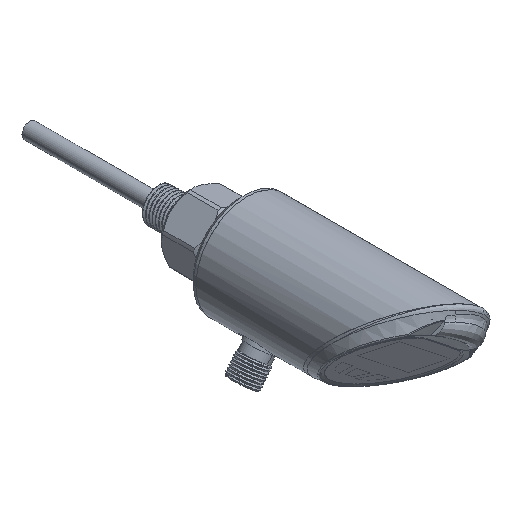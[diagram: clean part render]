
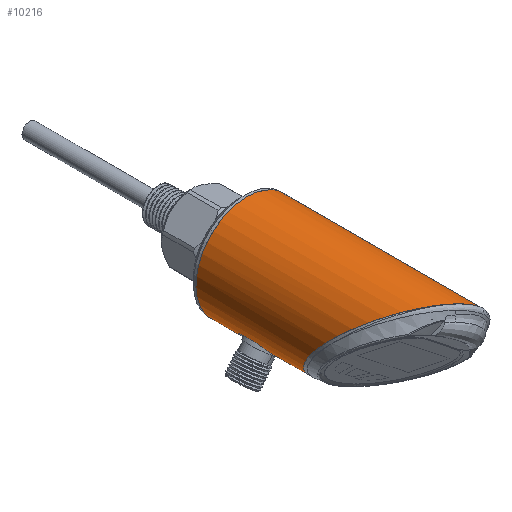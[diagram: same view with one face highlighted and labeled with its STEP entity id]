
A CAD part, isometric view. The second image highlights one B-rep face of the part: STEP entity #10216.
In plain terms, the highlighted cylindrical face has radius 20 mm (diameter 40 mm), a partial arc.
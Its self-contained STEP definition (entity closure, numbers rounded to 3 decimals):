
#279 = EDGE_CURVE ( 'NONE', #6740, #10438, #12647, .T. ) ;
#405 = CARTESIAN_POINT ( 'NONE',  ( -19.716, 97., -35.55 ) ) ;
#550 = CARTESIAN_POINT ( 'NONE',  ( 19.685, 137., -42.45 ) ) ;
#588 = CARTESIAN_POINT ( 'NONE',  ( -19.716, 83.5, -35.55 ) ) ;
#669 = VECTOR ( 'NONE', #2079, 1000. ) ;
#1087 = CARTESIAN_POINT ( 'NONE',  ( -19.716, 83.5, -35.55 ) ) ;
#2079 = DIRECTION ( 'NONE',  ( 0., 1., 0. ) ) ;
#2179 = CARTESIAN_POINT ( 'NONE',  ( -20.015, 70.226, -38.667 ) ) ;
#2563 = CARTESIAN_POINT ( 'NONE',  ( -20.002, 82.099, -39.778 ) ) ;
#3244 = EDGE_CURVE ( 'NONE', #16395, #18468, #4799, .T. ) ;
#3266 = CARTESIAN_POINT ( 'NONE',  ( -26.615, 97., -74.951 ) ) ;
#3310 = ORIENTED_EDGE ( 'NONE', *, *, #3961, .F. ) ;
#3436 = ORIENTED_EDGE ( 'NONE', *, *, #13723, .T. ) ;
#3843 = CARTESIAN_POINT ( 'NONE',  ( -19.716, 69.5, -35.55 ) ) ;
#3933 = CARTESIAN_POINT ( 'NONE',  ( -19.996, 69.967, -38.074 ) ) ;
#3961 = EDGE_CURVE ( 'NONE', #10269, #17028, #6032, .T. ) ;
#4142 = CARTESIAN_POINT ( 'NONE',  ( -19.821, 83.477, -36.198 ) ) ;
#4273 = ORIENTED_EDGE ( 'NONE', *, *, #5265, .T. ) ;
#4461 = CARTESIAN_POINT ( 'NONE',  ( -19.808, 114.234, -41.874 ) ) ;
#4551 = CARTESIAN_POINT ( 'NONE',  ( 19.685, 137., -42.45 ) ) ;
#4799 = LINE ( 'NONE', #9447, #13578 ) ;
#5265 = EDGE_CURVE ( 'NONE', #6588, #6740, #6730, .T. ) ;
#5423 = CARTESIAN_POINT ( 'NONE',  ( -19.959, 71.527, -40.519 ) ) ;
#6032 = LINE ( 'NONE', #7321, #10811 ) ;
#6588 = VERTEX_POINT ( 'NONE', #19271 ) ;
#6720 = EDGE_CURVE ( 'NONE', #18468, #15538, #10520, .T. ) ;
#6730 = B_SPLINE_CURVE_WITH_KNOTS ( 'NONE', 3,
 ( #9992, #17490, #19158, #19354, #7206, #2563, #11664, #8594, #13243, #16310, #16412, #17678, #14646, #4142, #19060, #1087 ),
 .UNSPECIFIED., .F., .F.,
 ( 4, 2, 2, 2, 2, 2, 2, 4 ),
 ( -0.008, -0.006, -0.005, -0.004, -0.003, -0.002, -0.001, 0. ),
 .UNSPECIFIED. ) ;
#6740 = VERTEX_POINT ( 'NONE', #588 ) ;
#6909 = CARTESIAN_POINT ( 'NONE',  ( -19.808, 73.338, -41.874 ) ) ;
#7038 = CARTESIAN_POINT ( 'NONE',  ( -0.016, 114.234, -39. ) ) ;
#7130 = DIRECTION ( 'NONE',  ( 0., 1., 0. ) ) ;
#7199 = CARTESIAN_POINT ( 'NONE',  ( -19.716, 69.5, -35.55 ) ) ;
#7206 = CARTESIAN_POINT ( 'NONE',  ( -19.976, 81.692, -40.282 ) ) ;
#7321 = CARTESIAN_POINT ( 'NONE',  ( 19.685, 114.234, -42.45 ) ) ;
#8010 = EDGE_LOOP ( 'NONE', ( #3310, #16247, #12678, #15897, #3436, #4273, #17016, #11835 ) ) ;
#8102 = CARTESIAN_POINT ( 'NONE',  ( -19.976, 71.308, -40.282 ) ) ;
#8197 = CARTESIAN_POINT ( 'NONE',  ( -19.98, 69.856, -37.765 ) ) ;
#8330 = CYLINDRICAL_SURFACE ( 'NONE', #10026, 20. ) ;
#8385 = CARTESIAN_POINT ( 'NONE',  ( -19.716, 114.234, -35.55 ) ) ;
#8594 = CARTESIAN_POINT ( 'NONE',  ( -20.017, 82.62, -38.962 ) ) ;
#9447 = CARTESIAN_POINT ( 'NONE',  ( -19.716, 114.234, -35.55 ) ) ;
#9525 = VECTOR ( 'NONE', #18304, 1000. ) ;
#9791 = CARTESIAN_POINT ( 'NONE',  ( -19.907, 69.59, -36.83 ) ) ;
#9889 = CARTESIAN_POINT ( 'NONE',  ( -20.017, 70.375, -38.954 ) ) ;
#9992 = CARTESIAN_POINT ( 'NONE',  ( -19.808, 79.662, -41.874 ) ) ;
#10014 = FACE_OUTER_BOUND ( 'NONE', #8010, .T. ) ;
#10026 = AXIS2_PLACEMENT_3D ( 'NONE', #7038, #7130, #16040 ) ;
#10206 = CARTESIAN_POINT ( 'NONE',  ( 19.685, 59., -42.45 ) ) ;
#10216 = ADVANCED_FACE ( 'NONE', ( #10014 ), #8330, .T. ) ;
#10269 = VERTEX_POINT ( 'NONE', #10206 ) ;
#10295 = DIRECTION ( 'NONE',  ( 0., 1., 0. ) ) ;
#10438 = VERTEX_POINT ( 'NONE', #16306 ) ;
#10520 = B_SPLINE_CURVE_WITH_KNOTS ( 'NONE', 3,
 ( #3843, #11274, #9791, #8197, #3933, #2179, #9889, #15814, #12652, #8102, #5423, #11366, #17187, #6909 ),
 .UNSPECIFIED., .F., .F.,
 ( 4, 2, 2, 2, 2, 2, 4 ),
 ( 0.008, 0.01, 0.011, 0.012, 0.013, 0.014, 0.015 ),
 .UNSPECIFIED. ) ;
#10811 = VECTOR ( 'NONE', #10295, 1000. ) ;
#10998 = EDGE_CURVE ( 'NONE', #10438, #17028, #18998, .T. ) ;
#11136 = DIRECTION ( 'NONE',  ( 0., 1., 0. ) ) ;
#11274 = CARTESIAN_POINT ( 'NONE',  ( -19.829, 69.5, -36.195 ) ) ;
#11280 = CARTESIAN_POINT ( 'NONE',  ( -0.016, 59., -39. ) ) ;
#11366 = CARTESIAN_POINT ( 'NONE',  ( -19.901, 72.228, -41.184 ) ) ;
#11372 = DIRECTION ( 'NONE',  ( -0.985, 0., 0.172 ) ) ;
#11664 = CARTESIAN_POINT ( 'NONE',  ( -20.011, 82.285, -39.513 ) ) ;
#11835 = ORIENTED_EDGE ( 'NONE', *, *, #10998, .T. ) ;
#12078 = CARTESIAN_POINT ( 'NONE',  ( 12.785, 137., -81.85 ) ) ;
#12647 = LINE ( 'NONE', #8385, #669 ) ;
#12652 = CARTESIAN_POINT ( 'NONE',  ( -20.002, 70.899, -39.776 ) ) ;
#12678 = ORIENTED_EDGE ( 'NONE', *, *, #3244, .T. ) ;
#13033 = CARTESIAN_POINT ( 'NONE',  ( -19.716, 59., -35.55 ) ) ;
#13243 = CARTESIAN_POINT ( 'NONE',  ( -20.015, 82.771, -38.674 ) ) ;
#13578 = VECTOR ( 'NONE', #11136, 1000. ) ;
#13674 = CIRCLE ( 'NONE', #19329, 20. ) ;
#13723 = EDGE_CURVE ( 'NONE', #15538, #6588, #13773, .T. ) ;
#13773 = LINE ( 'NONE', #4461, #9525 ) ;
#14646 = CARTESIAN_POINT ( 'NONE',  ( -19.901, 83.386, -36.836 ) ) ;
#15538 = VERTEX_POINT ( 'NONE', #16654 ) ;
#15814 = CARTESIAN_POINT ( 'NONE',  ( -20.011, 70.711, -39.507 ) ) ;
#15897 = ORIENTED_EDGE ( 'NONE', *, *, #6720, .T. ) ;
#16040 = DIRECTION ( 'NONE',  ( -0.985, 0., 0.172 ) ) ;
#16247 = ORIENTED_EDGE ( 'NONE', *, *, #18430, .T. ) ;
#16306 = CARTESIAN_POINT ( 'NONE',  ( -19.716, 97., -35.55 ) ) ;
#16310 = CARTESIAN_POINT ( 'NONE',  ( -19.996, 83.033, -38.074 ) ) ;
#16395 = VERTEX_POINT ( 'NONE', #13033 ) ;
#16412 = CARTESIAN_POINT ( 'NONE',  ( -19.98, 83.143, -37.769 ) ) ;
#16654 = CARTESIAN_POINT ( 'NONE',  ( -19.808, 73.338, -41.874 ) ) ;
#17016 = ORIENTED_EDGE ( 'NONE', *, *, #279, .T. ) ;
#17028 = VERTEX_POINT ( 'NONE', #550 ) ;
#17187 = CARTESIAN_POINT ( 'NONE',  ( -19.852, 72.76, -41.57 ) ) ;
#17490 = CARTESIAN_POINT ( 'NONE',  ( -19.852, 80.24, -41.569 ) ) ;
#17678 = CARTESIAN_POINT ( 'NONE',  ( -19.932, 83.319, -37.15 ) ) ;
#18304 = DIRECTION ( 'NONE',  ( 0., 1., 0. ) ) ;
#18430 = EDGE_CURVE ( 'NONE', #10269, #16395, #13674, .T. ) ;
#18468 = VERTEX_POINT ( 'NONE', #7199 ) ;
#18770 = DIRECTION ( 'NONE',  ( 0., 1., 0. ) ) ;
#18998 =( BOUNDED_CURVE ( )  B_SPLINE_CURVE ( 3, ( #405, #3266, #12078, #4551 ),
 .UNSPECIFIED., .F., .T. ) 
 B_SPLINE_CURVE_WITH_KNOTS ( ( 4, 4 ),
 ( 3.142, 6.283 ),
 .UNSPECIFIED. ) 
 CURVE ( )  GEOMETRIC_REPRESENTATION_ITEM ( )  RATIONAL_B_SPLINE_CURVE ( ( 1., 0.333, 0.333, 1. ) ) 
 REPRESENTATION_ITEM ( '' )  );
#19060 = CARTESIAN_POINT ( 'NONE',  ( -19.772, 83.5, -35.873 ) ) ;
#19158 = CARTESIAN_POINT ( 'NONE',  ( -19.9, 80.763, -41.192 ) ) ;
#19271 = CARTESIAN_POINT ( 'NONE',  ( -19.808, 79.662, -41.874 ) ) ;
#19329 = AXIS2_PLACEMENT_3D ( 'NONE', #11280, #18770, #11372 ) ;
#19354 = CARTESIAN_POINT ( 'NONE',  ( -19.959, 81.469, -40.524 ) ) ;
